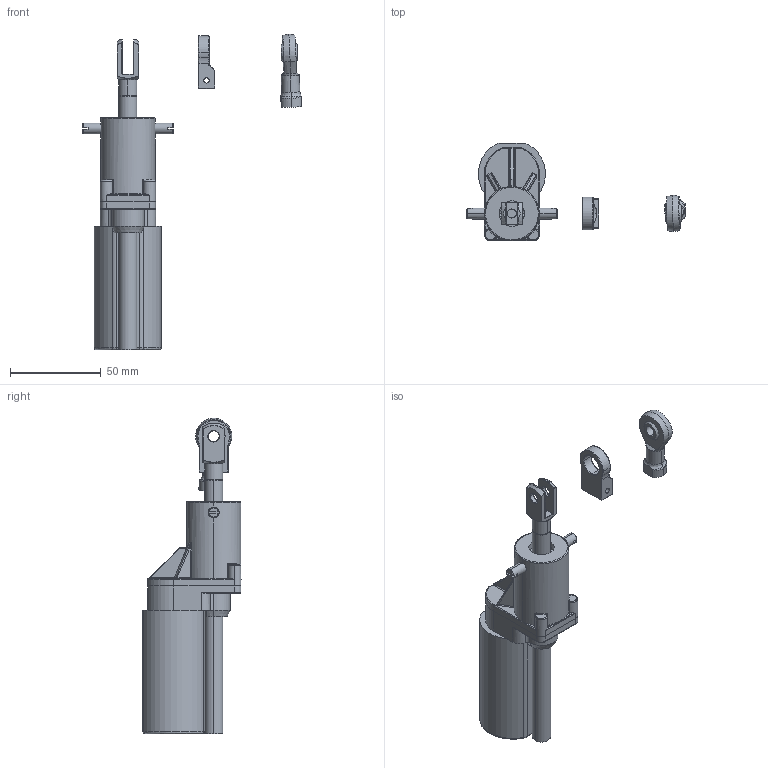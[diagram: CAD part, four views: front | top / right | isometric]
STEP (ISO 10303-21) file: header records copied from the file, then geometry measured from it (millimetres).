
FILE_DESCRIPTION (( 'STEP AP203' ), '1' );
FILE_NAME ('100 Antrieb.STEP', '2010-02-25T10:24:15', ( 'PC' ), ( 'PC' ), 'SwSTEP 2.0', 'SolidWorks 2007', '' );
FILE_SCHEMA (( 'CONFIG_CONTROL_DESIGN' ));
Length unit declared in the file: millimetre
Products named in the file (12): 100 Antrieb; Getriebegehäuse_Standard_Standard; Gewindestift_Standard_Standard; Motorflansch_Standard_Standard; Motor_Standard_Standard; Prospektspindel_Für Gabelkopf_Standard; Gabelgelenk_Standard_Standard; Spindel mit Anbauteil_mit Gabelgelenk_Standard; Kugel_Standard_Standard; Kugelgelenkkörper_Standard_Standard; Kugelgelenk_Standard; Auge_Standard
Assembly tree (12 placements, depth 3):
  100 Antrieb
    Gewindestift_Standard_Standard  x2
    Spindel mit Anbauteil_mit Gabelgelenk_Standard
      Gabelgelenk_Standard_Standard
      Prospektspindel_Für Gabelkopf_Standard
    Kugelgelenk_Standard
      Kugelgelenkkörper_Standard_Standard
      Kugel_Standard_Standard
    Motorflansch_Standard_Standard
    Auge_Standard
    Motor_Standard_Standard
    Getriebegehäuse_Standard_Standard
Bounding box: 120.66 x 54.05 x 173.99 mm (x, y, z)
Volume: 140022.4 mm3; surface area: 36591.7 mm2
Topology: 10 solids, 10 shells, 404 faces, 994 edges, 578 vertices
Faces by surface type: cylinder 154, bspline 135, plane 82, cone 33
Entity records: 17152 total; most frequent: CARTESIAN_POINT 7533, ORIENTED_EDGE 1872, DIRECTION 1621, EDGE_CURVE 936, AXIS2_PLACEMENT_3D 661, VERTEX_POINT 561, EDGE_LOOP 417, FACE_OUTER_BOUND 393
